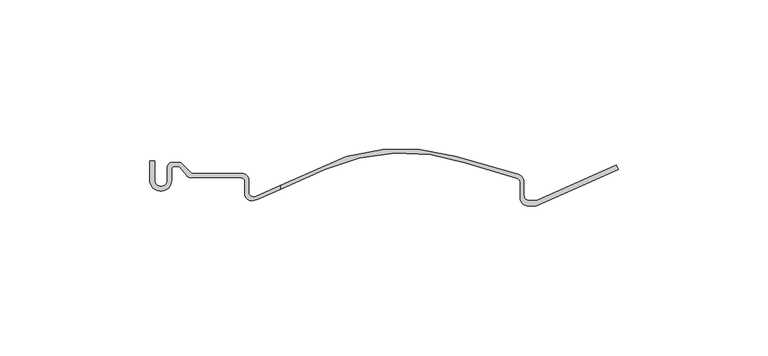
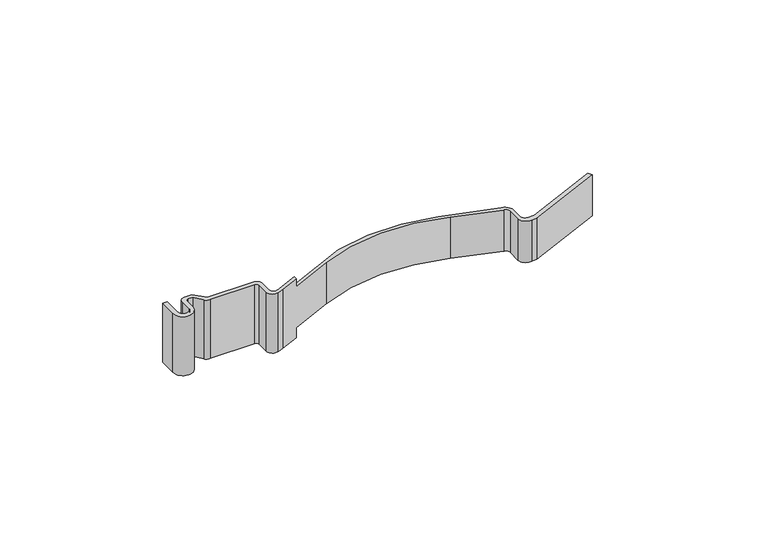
"""IFC4 building model written with IfcOpenShell, lengths in millimetres: cable carrier fitting geometry, BAKS_SUB_KS_CONN_Snap-In Connector with lock_ZLSN : ZLSN."""

from ifc_helpers import new_model, si_unit, frame, origin, place, context, project, spatial, polyline, circle_curve, source, transform, mapped, element, save
from ifc_brep_helpers import plane_surface, cylinder_surface, revolved_surface, advanced_brep


def cable_carrier_fitting_6db669f1(model_context):
    return source(origin(), model_context, "Body", "AdvancedBrep", [
        advanced_brep(
        [(-16.2774234, 0.0, 23.0), (-8.8958623, 0.0, 23.0), (-8.8958623, 3.7438247, 23.0), (-8.1099927, 4.5296943, 23.0), (-6.3698528, 4.5296943, 23.0), (-3.9340293, 1.5217027, 23.0), (-2.0, 0.8177736, 23.0), (14.2746658, 0.8177736, 23.0), (15.4425675, 0.0, 23.0), (15.4425675, -4.4547194, 23.0), (18.4093307, -6.8571568, 23.0), (20.816871, -5.9808838, 23.0), (27.3907936, -3.0539849, 23.0), (27.3907936, -1.8005209, 23.0), (19.1421404, -5.4730579, 23.0), (16.8397542, -4.1437746, 23.0), (16.8397542, 0.0, 23.0), (14.5546679, 2.2850863, 23.0), (-2.1716987, 2.2850863, 23.0), (-5.8416797, 5.9550673, 23.0), (-8.6233423, 5.9550673, 23.0), (-10.3961789, 4.1822307, 23.0), (-10.3961789, 0.0, 23.0), (-14.5784096, 0.0, 23.0), (-14.5784096, 6.4382348, 23.0), (-16.2774234, 6.4382348, 23.0), (-16.2774234, 0.0, 0.0), (-16.2774234, 6.4382348, 0.0), (-14.5784096, 6.4382348, 0.0), (-14.5784096, 0.0, 0.0), (-10.3961789, 0.0, 0.0), (-10.3961789, 4.1822307, 0.0), (-8.6233423, 5.9550673, 0.0), (-5.8416797, 5.9550673, 0.0), (-2.1716987, 2.2850863, 0.0), (14.5546679, 2.2850863, 0.0), (16.8397542, 0.0, 0.0), (16.8397542, -4.1437746, 0.0), (19.1421404, -5.4730579, 0.0), (27.3907936, -1.8005209, 0.0), (27.3907936, -3.0539849, 0.0), (20.816871, -5.9808838, 0.0), (18.4093307, -6.8571568, 0.0), (15.4425675, -4.4547194, 0.0), (15.4425675, 0.0, 0.0), (14.2746658, 0.8177736, 0.0), (-2.0, 0.8177736, 0.0), (-3.9340293, 1.5217027, 0.0), (-6.3698528, 4.5296943, 0.0), (-8.1099927, 4.5296943, 0.0), (-8.8958623, 3.7438247, 0.0), (-8.8958623, 0.0, 0.0), (27.3907936, -3.0539849, 4.0), (42.3105217, 3.588706, 4.0), (42.3105217, 3.588706, 20.0), (27.3907936, -3.0539849, 20.0), (89.2907665, 5.7499431, 4.0), (89.2907665, 5.7499431, 20.0), (106.0239398, 0.6340987, 4.0), (106.0239398, 0.6340987, 20.0), (107.5376936, -0.8796552, 4.0), (107.5376936, -0.8796552, 20.0), (107.5376936, -5.8796552, 4.0), (107.5376936, -5.8796552, 20.0), (111.0313468, -8.6091962, 4.0), (111.0313468, -8.6091962, 20.0), (112.9468571, -8.6091962, 4.0), (112.9468571, -8.6091962, 20.0), (140.3532208, 3.5929031, 4.0), (140.3532208, 3.5929031, 20.0), (139.6834326, 5.0972722, 4.0), (139.6834326, 5.0972722, 20.0), (113.0175646, -6.7751372, 4.0), (113.0175646, -6.7751372, 20.0), (110.5224489, -6.7751372, 4.0), (110.5224489, -6.7751372, 20.0), (108.7935168, -5.046205, 4.0), (108.7935168, -5.046205, 20.0), (108.7935168, 0.0, 4.0), (108.7935168, 0.0, 20.0), (106.1107616, 2.2510989, 4.0), (106.1107616, 2.2510989, 20.0), (86.1480477, 7.975315, 4.0), (86.1480477, 7.975315, 20.0), (49.3476804, 7.975315, 4.0), (49.3476804, 7.975315, 20.0), (27.3907936, -1.8005209, 20.0), (27.3907936, -1.8005209, 4.0)],
        [
            (0, 1, circle_curve(frame((-12.5866428, 0.0, 23.0), z_axis=(0.0, 0.0, 1.0), x_axis=(1.0, 0.0, 0.0)), 3.6907805)),
            (1, 2),
            (2, 3, circle_curve(frame((-8.1099927, 3.7438247, 23.0), z_axis=(0.0, 0.0, -1.0), x_axis=(1.0, 0.0, 0.0)), 0.7858696)),
            (3, 4),
            (4, 5),
            (5, 6, circle_curve(frame((-2.3812473, 2.7791207, 23.0), z_axis=(0.0, 0.0, 1.0), x_axis=(1.0, 0.0, 0.0)), 1.9980571)),
            (6, 7),
            (7, 8, circle_curve(frame((14.2746658, -0.4250815, 23.0), z_axis=(0.0, 0.0, -1.0), x_axis=(1.0, 0.0, 0.0)), 1.2428551)),
            (8, 9),
            (9, 10, circle_curve(frame((17.8986769, -4.4547194, 23.0), z_axis=(0.0, 0.0, 1.0), x_axis=(1.0, 0.0, 0.0)), 2.4561094)),
            (10, 11, circle_curve(frame((16.4955977, 2.1462494, 23.0), z_axis=(0.0, 0.0, 1.0), x_axis=(1.0, 0.0, 0.0)), 9.2045477)),
            (11, 12),
            (12, 13),
            (13, 14),
            (14, 15, circle_curve(frame((18.4738377, -3.9720255, 23.0), z_axis=(0.0, 0.0, -1.0), x_axis=(1.0, 0.0, 0.0)), 1.6430845)),
            (15, 16),
            (16, 17, circle_curve(frame((14.5546679, 0.0, 23.0), z_axis=(0.0, 0.0, 1.0), x_axis=(1.0, 0.0, 0.0)), 2.2850863)),
            (17, 18),
            (18, 19),
            (19, 20),
            (20, 21, circle_curve(frame((-8.6233423, 4.1822307, 23.0), z_axis=(0.0, 0.0, 1.0), x_axis=(1.0, 0.0, 0.0)), 1.7728365)),
            (21, 22),
            (22, 23, circle_curve(frame((-12.4872942, 0.0, 23.0), z_axis=(0.0, 0.0, -1.0), x_axis=(1.0, 0.0, 0.0)), 2.0911154)),
            (23, 24),
            (24, 25),
            (25, 0),
            (26, 27),
            (27, 28),
            (28, 29),
            (29, 30, circle_curve(frame((-12.4872942, 0.0, 0.0), z_axis=(0.0, 0.0, 1.0), x_axis=(1.0, 0.0, 0.0)), 2.0911154)),
            (30, 31),
            (31, 32, circle_curve(frame((-8.6233423, 4.1822307, 0.0), z_axis=(0.0, 0.0, -1.0), x_axis=(1.0, 0.0, 0.0)), 1.7728365)),
            (32, 33),
            (33, 34),
            (34, 35),
            (35, 36, circle_curve(frame((14.5546679, 0.0, 0.0), z_axis=(0.0, 0.0, -1.0), x_axis=(1.0, 0.0, 0.0)), 2.2850863)),
            (36, 37),
            (37, 38, circle_curve(frame((18.4738377, -3.9720255, 0.0), z_axis=(0.0, 0.0, 1.0), x_axis=(1.0, 0.0, 0.0)), 1.6430845)),
            (38, 39),
            (39, 40),
            (40, 41),
            (41, 42, circle_curve(frame((16.4955977, 2.1462494, 0.0), z_axis=(0.0, 0.0, -1.0), x_axis=(1.0, 0.0, 0.0)), 9.2045477)),
            (42, 43, circle_curve(frame((17.8986769, -4.4547194, 0.0), z_axis=(0.0, 0.0, -1.0), x_axis=(1.0, 0.0, 0.0)), 2.4561094)),
            (43, 44),
            (44, 45, circle_curve(frame((14.2746658, -0.4250815, 0.0), z_axis=(0.0, 0.0, 1.0), x_axis=(1.0, 0.0, 0.0)), 1.2428551)),
            (45, 46),
            (46, 47, circle_curve(frame((-2.3812473, 2.7791207, 0.0), z_axis=(0.0, 0.0, -1.0), x_axis=(1.0, 0.0, 0.0)), 1.9980571)),
            (47, 48),
            (48, 49),
            (49, 50, circle_curve(frame((-8.1099927, 3.7438247, 0.0), z_axis=(0.0, 0.0, 1.0), x_axis=(1.0, 0.0, 0.0)), 0.7858696)),
            (50, 51),
            (51, 26, circle_curve(frame((-12.5866428, 0.0, 0.0), z_axis=(0.0, 0.0, -1.0), x_axis=(1.0, 0.0, 0.0)), 3.6907805)),
            (0, 26),
            (51, 1),
            (50, 2),
            (49, 3),
            (48, 4),
            (47, 5),
            (46, 6),
            (45, 7),
            (44, 8),
            (43, 9),
            (42, 10),
            (41, 11),
            (40, 52),
            (52, 53),
            (53, 54),
            (54, 55),
            (55, 12),
            (53, 56, circle_curve(frame((68.5628712, -55.3750364, 4.0), z_axis=(0.0, 0.0, -1.0), x_axis=(1.0, 0.0, 0.0)), 64.5438515)),
            (56, 57),
            (57, 54, circle_curve(frame((68.5628712, -55.3750364, 20.0), z_axis=(0.0, 0.0, 1.0), x_axis=(1.0, 0.0, 0.0)), 64.5438515)),
            (56, 58),
            (58, 59),
            (59, 57),
            (58, 60, circle_curve(frame((106.0239398, -0.8796552, 4.0), z_axis=(0.0, 0.0, -1.0), x_axis=(1.0, 0.0, 0.0)), 1.5137539)),
            (60, 61),
            (61, 59, circle_curve(frame((106.0239398, -0.8796552, 20.0), z_axis=(0.0, 0.0, 1.0), x_axis=(1.0, 0.0, 0.0)), 1.5137539)),
            (60, 62),
            (62, 63),
            (63, 61),
            (62, 64, circle_curve(frame((110.3507958, -5.8796552, 4.0), z_axis=(0.0, 0.0, 1.0), x_axis=(1.0, 0.0, 0.0)), 2.8131022)),
            (64, 65),
            (65, 63, circle_curve(frame((110.3507958, -5.8796552, 20.0), z_axis=(0.0, 0.0, -1.0), x_axis=(1.0, 0.0, 0.0)), 2.8131022)),
            (64, 66),
            (66, 67),
            (67, 65),
            (66, 68),
            (68, 69),
            (69, 67),
            (68, 70),
            (70, 71),
            (71, 69),
            (70, 72),
            (72, 73),
            (73, 71),
            (72, 74),
            (74, 75),
            (75, 73),
            (74, 76, circle_curve(frame((110.5224489, -5.046205, 4.0), z_axis=(0.0, 0.0, -1.0), x_axis=(1.0, 0.0, 0.0)), 1.7289322)),
            (76, 77),
            (77, 75, circle_curve(frame((110.5224489, -5.046205, 20.0), z_axis=(0.0, 0.0, 1.0), x_axis=(1.0, 0.0, 0.0)), 1.7289322)),
            (76, 78),
            (78, 79),
            (79, 77),
            (78, 80, circle_curve(frame((105.2532157, -1.4950256, 4.0), z_axis=(0.0, 0.0, 1.0), x_axis=(1.0, 0.0, 0.0)), 3.843024)),
            (80, 81),
            (81, 79, circle_curve(frame((105.2532157, -1.4950256, 20.0), z_axis=(0.0, 0.0, -1.0), x_axis=(1.0, 0.0, 0.0)), 3.843024)),
            (80, 82),
            (82, 83),
            (83, 81),
            (82, 84, circle_curve(frame((67.747864, -56.1937513, 4.0), z_axis=(0.0, 0.0, 1.0), x_axis=(1.0, 0.0, 0.0)), 66.7550434)),
            (84, 85),
            (85, 83, circle_curve(frame((67.747864, -56.1937513, 20.0), z_axis=(0.0, 0.0, -1.0), x_axis=(1.0, 0.0, 0.0)), 66.7550434)),
            (38, 14),
            (13, 86),
            (86, 85),
            (84, 87),
            (87, 39),
            (37, 15),
            (36, 16),
            (35, 17),
            (34, 18),
            (33, 19),
            (32, 20),
            (31, 21),
            (30, 22),
            (29, 23),
            (28, 24),
            (27, 25),
            (55, 86),
            (52, 87),
        ],
        [
            plane_surface(frame((-8.8958623, 0.0, 23.0), z_axis=(0.0, 0.0, 1.0), x_axis=(0.0, 1.0, 0.0))),
            plane_surface(frame((-8.8958623, 0.0, 0.0), z_axis=(0.0, 0.0, -1.0), x_axis=(0.0, -1.0, 0.0))),
            cylinder_surface(frame((-12.5866428, 0.0, 0.0), z_axis=(0.0, 0.0, 1.0), x_axis=(1.0, 0.0, 0.0)), 3.6907805),
            plane_surface(frame((-8.8958623, 0.0, 23.0), z_axis=(1.0, 0.0, 0.0), x_axis=(0.0, 0.0, -1.0))),
            revolved_surface(polyline([(-7.3241230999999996, 3.7438247, 0.0), (-7.3241230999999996, 3.7438247, 23.0)]), (-8.1099927, 3.7438247, 0.0), (0.0, 0.0, -1.0)),
            plane_surface(frame((-8.1099927, 4.5296943, 23.0), z_axis=(0.0, -1.0, 0.0), x_axis=(0.0, 0.0, -1.0))),
            plane_surface(frame((-6.3698528, 4.5296943, 23.0), z_axis=(-0.7771459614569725, -0.6293203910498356, 0.0), x_axis=(0.0, 0.0, -1.0))),
            cylinder_surface(frame((-2.3812473, 2.7791207, 0.0), z_axis=(0.0, 0.0, 1.0), x_axis=(1.0, 0.0, 0.0)), 1.9980571),
            plane_surface(frame((-2.0, 0.8177736, 23.0), z_axis=(0.0, -1.0, 0.0), x_axis=(0.0, 0.0, -1.0))),
            revolved_surface(polyline([(15.5175209, -0.4250815, 0.0), (15.5175209, -0.4250815, 23.0)]), (14.2746658, -0.4250815, 0.0), (0.0, 0.0, -1.0)),
            plane_surface(frame((15.4425675, 0.0, 23.0), z_axis=(-1.0, 0.0, 0.0), x_axis=(0.0, 0.0, -1.0))),
            cylinder_surface(frame((17.8986769, -4.4547194, 0.0), z_axis=(0.0, 0.0, 1.0), x_axis=(1.0, 0.0, 0.0)), 2.4561094),
            cylinder_surface(frame((16.4955977, 2.1462494, 0.0), z_axis=(0.0, 0.0, 1.0), x_axis=(1.0, 0.0, 0.0)), 9.2045477),
            plane_surface(frame((20.816871, -5.9808838, 23.0), z_axis=(0.4067366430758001, -0.9135454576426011, 0.0), x_axis=(0.0, 0.0, -1.0))),
            revolved_surface(polyline([(133.1067227, -55.3750364, 4.0), (133.1067227, -55.3750364, 20.0)]), (68.5628712, -55.3750364, 0.0), (0.0, 0.0, -1.0)),
            plane_surface(frame((89.2907665, 5.7499431, 23.0), z_axis=(-0.2923717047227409, -0.9563047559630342, 0.0), x_axis=(0.0, 0.0, -1.0))),
            revolved_surface(polyline([(107.53769369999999, -0.8796552, 4.0), (107.53769369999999, -0.8796552, 20.0)]), (106.0239398, -0.8796552, 0.0), (0.0, 0.0, -1.0)),
            plane_surface(frame((107.5376936, -0.8796552, 23.0), z_axis=(-1.0, 0.0, 0.0), x_axis=(0.0, 0.0, -1.0))),
            cylinder_surface(frame((110.3507958, -5.8796552, 0.0), z_axis=(0.0, 0.0, 1.0), x_axis=(1.0, 0.0, 0.0)), 2.8131022),
            plane_surface(frame((111.0313468, -8.6091962, 23.0), z_axis=(0.0, -1.0, 0.0), x_axis=(0.0, 0.0, -1.0))),
            plane_surface(frame((112.9468571, -8.6091962, 23.0), z_axis=(0.4067366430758, -0.9135454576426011, 0.0), x_axis=(0.0, 0.0, -1.0))),
            plane_surface(frame((140.3532208, 3.5929031, 23.0), z_axis=(0.9135454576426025, 0.40673664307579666, 0.0), x_axis=(0.0, 0.0, -1.0))),
            plane_surface(frame((139.6834326, 5.0972722, 23.0), z_axis=(-0.4067366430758, 0.9135454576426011, 0.0), x_axis=(0.0, 0.0, -1.0))),
            plane_surface(frame((113.0175646, -6.7751372, 23.0), z_axis=(0.0, 1.0, 0.0), x_axis=(0.0, 0.0, -1.0))),
            revolved_surface(polyline([(112.2513811, -5.046205, 4.0), (112.2513811, -5.046205, 20.0)]), (110.5224489, -5.046205, 0.0), (0.0, 0.0, -1.0)),
            plane_surface(frame((108.7935168, -5.046205, 23.0), z_axis=(1.0, 0.0, 0.0), x_axis=(0.0, 0.0, -1.0))),
            cylinder_surface(frame((105.2532157, -1.4950256, 0.0), z_axis=(0.0, 0.0, 1.0), x_axis=(1.0, 0.0, 0.0)), 3.843024),
            plane_surface(frame((106.1107616, 2.2510989, 23.0), z_axis=(0.2756373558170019, 0.9612616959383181, 0.0), x_axis=(0.0, 0.0, -1.0))),
            cylinder_surface(frame((67.747864, -56.1937513, 0.0), z_axis=(0.0, 0.0, 1.0), x_axis=(1.0, 0.0, 0.0)), 66.7550434),
            plane_surface(frame((49.3476804, 7.975315, 23.0), z_axis=(-0.40673664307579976, 0.9135454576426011, 0.0), x_axis=(0.0, 0.0, -1.0))),
            revolved_surface(polyline([(20.1169222, -3.9720255, 0.0), (20.1169222, -3.9720255, 23.0)]), (18.4738377, -3.9720255, 0.0), (0.0, 0.0, -1.0)),
            plane_surface(frame((16.8397542, -4.1437746, 23.0), z_axis=(1.0, 0.0, 0.0), x_axis=(0.0, 0.0, -1.0))),
            cylinder_surface(frame((14.5546679, 0.0, 0.0), z_axis=(0.0, 0.0, 1.0), x_axis=(1.0, 0.0, 0.0)), 2.2850863),
            plane_surface(frame((14.5546679, 2.2850863, 23.0), z_axis=(0.0, 1.0, 0.0), x_axis=(0.0, 0.0, -1.0))),
            plane_surface(frame((-2.1716987, 2.2850863, 23.0), z_axis=(0.7071067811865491, 0.7071067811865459, 0.0), x_axis=(0.0, 0.0, -1.0))),
            plane_surface(frame((-5.8416797, 5.9550673, 23.0), z_axis=(0.0, 1.0, 0.0), x_axis=(0.0, 0.0, -1.0))),
            cylinder_surface(frame((-8.6233423, 4.1822307, 0.0), z_axis=(0.0, 0.0, 1.0), x_axis=(1.0, 0.0, 0.0)), 1.7728365),
            plane_surface(frame((-10.3961789, 4.1822307, 23.0), z_axis=(-1.0, 0.0, 0.0), x_axis=(0.0, 0.0, -1.0))),
            revolved_surface(polyline([(-10.3961788, 0.0, 0.0), (-10.3961788, 0.0, 23.0)]), (-12.4872942, 0.0, 0.0), (0.0, 0.0, -1.0)),
            plane_surface(frame((-14.5784096, 0.0, 23.0), z_axis=(1.0, 0.0, 0.0), x_axis=(0.0, 0.0, -1.0))),
            plane_surface(frame((-14.5784096, 6.4382348, 23.0), z_axis=(0.0, 1.0, 0.0), x_axis=(0.0, 0.0, -1.0))),
            plane_surface(frame((-16.2774234, 6.4382348, 23.0), z_axis=(-1.0, 0.0, 0.0), x_axis=(0.0, 0.0, -1.0))),
            plane_surface(frame((27.3907936, -24.7248921, 23.0), z_axis=(1.0, 0.0, 0.0), x_axis=(0.0, 1.0, 0.0))),
            plane_surface(frame((27.3907936, -24.7248921, 20.0), z_axis=(0.0, 0.0, 1.0), x_axis=(0.0, 1.0, 0.0))),
            plane_surface(frame((141.4279866, -24.7248921, 4.0), z_axis=(0.0, 0.0, -1.0), x_axis=(0.0, 1.0, 0.0))),
            plane_surface(frame((27.3907936, -24.7248921, 4.0), z_axis=(1.0, 0.0, 0.0), x_axis=(0.0, 1.0, 0.0))),
        ],
        [
            (0, [[1, 2, 3, 4, 5, 6, 7, 8, 9, 10, 11, 12, 13, 14, 15, 16, 17, 18, 19, 20, 21, 22, 23, 24, 25, 26]]),
            (1, [[27, 28, 29, 30, 31, 32, 33, 34, 35, 36, 37, 38, 39, 40, 41, 42, 43, 44, 45, 46, 47, 48, 49, 50, 51, 52]]),
            (2, [[-1, 53, -52, 54]]),
            (3, [[-2, -54, -51, 55]]),
            (4, [[-3, -55, -50, 56]]),
            (5, [[-4, -56, -49, 57]]),
            (6, [[-5, -57, -48, 58]]),
            (7, [[-6, -58, -47, 59]]),
            (8, [[-7, -59, -46, 60]]),
            (9, [[-8, -60, -45, 61]]),
            (10, [[-9, -61, -44, 62]]),
            (11, [[-10, -62, -43, 63]]),
            (12, [[-11, -63, -42, 64]]),
            (13, [[-64, -41, 65, 66, 67, 68, 69, -12]]),
            (14, [[-67, 70, 71, 72]]),
            (15, [[-71, 73, 74, 75]]),
            (16, [[-74, 76, 77, 78]]),
            (17, [[-77, 79, 80, 81]]),
            (18, [[-80, 82, 83, 84]]),
            (19, [[-83, 85, 86, 87]]),
            (20, [[-86, 88, 89, 90]]),
            (21, [[-89, 91, 92, 93]]),
            (22, [[-92, 94, 95, 96]]),
            (23, [[-95, 97, 98, 99]]),
            (24, [[-98, 100, 101, 102]]),
            (25, [[-101, 103, 104, 105]]),
            (26, [[-104, 106, 107, 108]]),
            (27, [[-107, 109, 110, 111]]),
            (28, [[-110, 112, 113, 114]]),
            (29, [[115, -14, 116, 117, -113, 118, 119, -39]]),
            (30, [[-15, -115, -38, 120]]),
            (31, [[-16, -120, -37, 121]]),
            (32, [[-17, -121, -36, 122]]),
            (33, [[-18, -122, -35, 123]]),
            (34, [[-19, -123, -34, 124]]),
            (35, [[-20, -124, -33, 125]]),
            (36, [[-21, -125, -32, 126]]),
            (37, [[-22, -126, -31, 127]]),
            (38, [[-23, -127, -30, 128]]),
            (39, [[-24, -128, -29, 129]]),
            (40, [[-25, -129, -28, 130]]),
            (41, [[-26, -130, -27, -53]]),
            (42, [[131, -116, -13, -69]]),
            (43, [[-131, -68, -72, -75, -78, -81, -84, -87, -90, -93, -96, -99, -102, -105, -108, -111, -114, -117]]),
            (44, [[132, -118, -112, -109, -106, -103, -100, -97, -94, -91, -88, -85, -82, -79, -76, -73, -70, -66]]),
            (45, [[-132, -65, -40, -119]]),
        ],
    ),
    ])


if __name__ == "__main__":
    model = new_model("IFC4")
    model_context = context("Model", 3, world=origin())
    ifc_project = project(units=[si_unit("LENGTHUNIT", "METRE", prefix="MILLI")], contexts=[model_context])
    site = spatial("IfcSite", under=ifc_project)
    building = spatial("IfcBuilding", under=site)
    placement = place(None, origin())
    cable_carrier_fitting_shape = cable_carrier_fitting_6db669f1(model_context)
    element("IfcCableCarrierFitting", 1, ObjectType="BAKS_SUB_KS_CONN_Snap-In Connector with lock_ZLSN : ZLSN", at=placement, inside=building, context=model_context, shape_type="MappedRepresentation", body=[
        mapped(cable_carrier_fitting_shape, transform((0.0, 0.0, 0.0), x_axis=(1.0, 0.0, 0.0), y_axis=(0.0, 1.0, 0.0), z_axis=(0.0, 0.0, 1.0))),
    ])
    save(model, "model.ifc")
